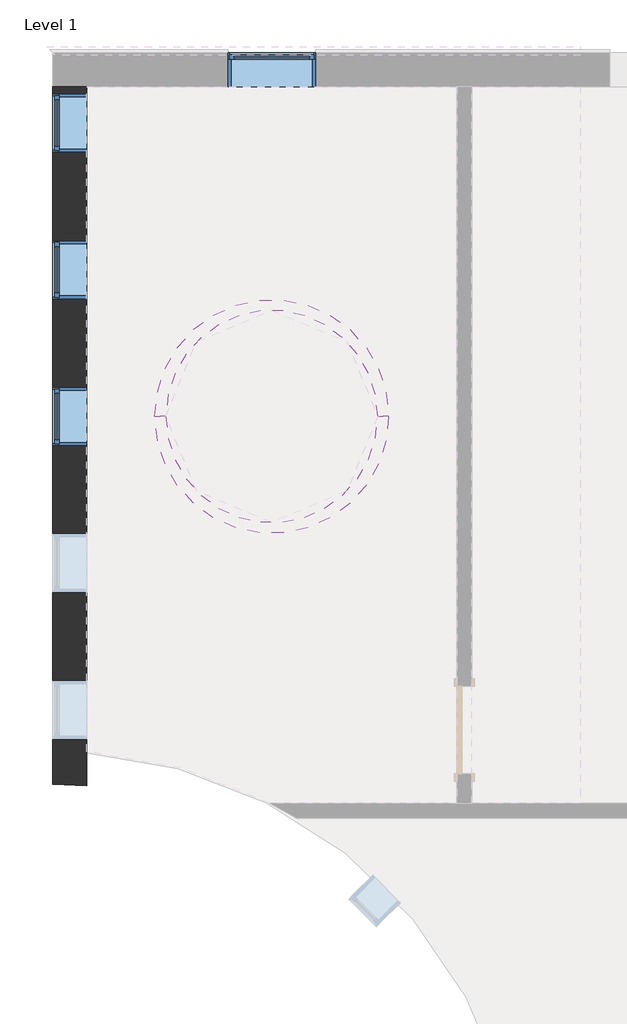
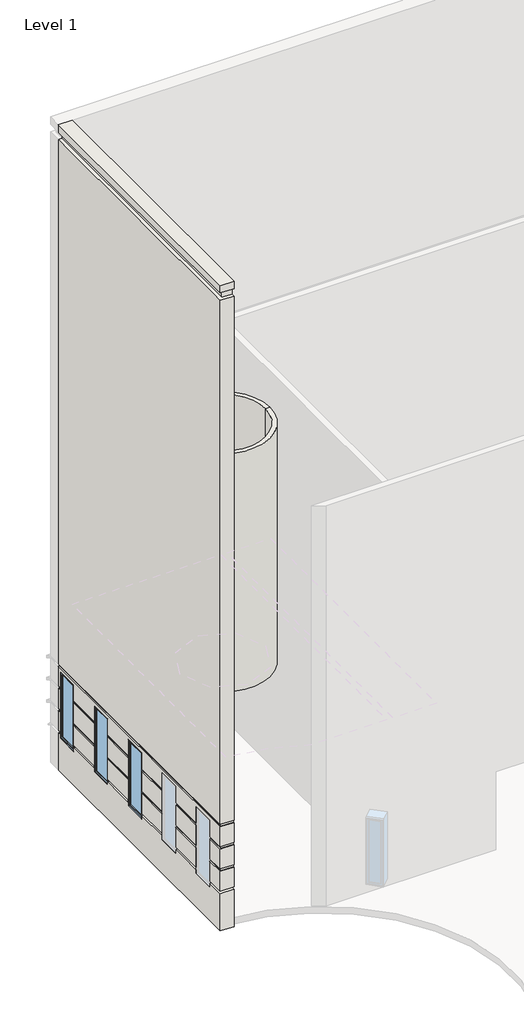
# One storey, part 6 of 16: 4 windows, 3 walls.
"""IFC4 building model written with IfcOpenShell, lengths in millimetres."""

from ifc_helpers import new_model, si_unit, point, frame, frame_2d, origin, place, context, project, spatial, polyline, circle_curve, trimmed, segment, composite_curve, outline, extrude, transform, mapped, element, save
from ifc_brep_helpers import plane_surface, cylinder_surface, revolved_surface, advanced_brep
from components import window_103a36ab, window_15c49d37

model = new_model("IFC4")

# Units and contexts
model_context = context("Model", 3, world=origin())
ifc_project = project(units=[si_unit("LENGTHUNIT", "METRE", prefix="MILLI")], contexts=[model_context])

# Site, building, storey
site = spatial("IfcSite", under=ifc_project)
building = spatial("IfcBuilding", under=site)
storey = spatial("IfcBuildingStorey", under=building, Name="Level 1", Elevation=0.0)

# Walls
placement = place(None, origin())
element("IfcWall", 1, ObjectType="Exterior - Brick and CMU on MTL. Stud (No Parapet)", at=placement, inside=storey, context=model_context, shape_type="AdvancedBrep", body=[
    advanced_brep(
    [(-67574.5273623, 17621.0987109, 17678.4), (-67574.5273623, 24888.6737109, 17678.4), (-67574.5273623, 24888.6737109, 17475.2), (-67574.5273623, 17621.0987109, 17475.2), (-67574.5273623, 24888.6737109, 0.0), (-67574.5273623, 17621.0987109, 0.0), (-67574.5273623, 17621.0987109, 1016.0), (-67574.5273623, 18090.9987109, 1016.0), (-67574.5273623, 18090.9987109, 914.4), (-67574.5273623, 18700.5987109, 914.4), (-67574.5273623, 18700.5987109, 1016.0), (-67574.5273623, 19619.7612109, 1016.0), (-67574.5273623, 19619.7612109, 914.4), (-67574.5273623, 20229.3612109, 914.4), (-67574.5273623, 20229.3612109, 1016.0), (-67574.5273623, 21148.5237109, 1016.0), (-67574.5273623, 21148.5237109, 914.4), (-67574.5273623, 21758.1237109, 914.4), (-67574.5273623, 21758.1237109, 1016.0), (-67574.5273623, 22677.2862109, 1016.0), (-67574.5273623, 22677.2862109, 914.4), (-67574.5273623, 23286.8862109, 914.4), (-67574.5273623, 23286.8862109, 1016.0), (-67574.5273623, 24206.0487109, 1016.0), (-67574.5273623, 24206.0487109, 914.4), (-67574.5273623, 24815.6487109, 914.4), (-67574.5273623, 24815.6487109, 1016.0), (-67574.5273623, 24888.6737109, 1016.0), (-67574.5273623, 24888.6737109, 1625.6), (-67574.5273623, 24888.6737109, 1085.85), (-67574.5273623, 24815.6487109, 1085.85), (-67574.5273623, 24815.6487109, 1625.6), (-67574.5273623, 24888.6737109, 2235.2), (-67574.5273623, 24888.6737109, 1693.3333333), (-67574.5273623, 24815.6487109, 1693.3333333), (-67574.5273623, 24815.6487109, 2235.2), (-67574.5273623, 24888.6737109, 2844.8), (-67574.5273623, 24888.6737109, 2302.9333333), (-67574.5273623, 24815.6487109, 2302.9333333), (-67574.5273623, 24815.6487109, 2743.2), (-67574.5273623, 24206.0487109, 2743.2), (-67574.5273623, 24206.0487109, 2302.9333333), (-67574.5273623, 23286.8862109, 2302.9333333), (-67574.5273623, 23286.8862109, 2743.2), (-67574.5273623, 22677.2862109, 2743.2), (-67574.5273623, 22677.2862109, 2302.9333333), (-67574.5273623, 21758.1237109, 2302.9333333), (-67574.5273623, 21758.1237109, 2743.2), (-67574.5273623, 21148.5237109, 2743.2), (-67574.5273623, 21148.5237109, 2302.9333333), (-67574.5273623, 20229.3612109, 2302.9333333), (-67574.5273623, 20229.3612109, 2743.2), (-67574.5273623, 19619.7612109, 2743.2), (-67574.5273623, 19619.7612109, 2302.9333333), (-67574.5273623, 18700.5987109, 2302.9333333), (-67574.5273623, 18700.5987109, 2743.2), (-67574.5273623, 18090.9987109, 2743.2), (-67574.5273623, 18090.9987109, 2302.9333333), (-67574.5273623, 17621.0987109, 2302.9333333), (-67574.5273623, 17621.0987109, 2844.8), (-67574.5273623, 24888.6737109, 17272.0), (-67574.5273623, 24888.6737109, 2912.5333333), (-67574.5273623, 17621.0987109, 2912.5333333), (-67574.5273623, 17621.0987109, 17272.0), (-67574.5273623, 17621.0987109, 1625.6), (-67574.5273623, 18090.9987109, 1625.6), (-67574.5273623, 18090.9987109, 1085.85), (-67574.5273623, 17621.0987109, 1085.85), (-67574.5273623, 18090.9987109, 1693.3333333), (-67574.5273623, 17621.0987109, 1693.3333333), (-67574.5273623, 17621.0987109, 2235.2), (-67574.5273623, 18090.9987109, 2235.2), (-67574.5273623, 18700.5987109, 1693.3333333), (-67574.5273623, 18700.5987109, 2235.2), (-67574.5273623, 19619.7612109, 2235.2), (-67574.5273623, 19619.7612109, 1693.3333333), (-67574.5273623, 18700.5987109, 1085.85), (-67574.5273623, 18700.5987109, 1625.6), (-67574.5273623, 19619.7612109, 1625.6), (-67574.5273623, 19619.7612109, 1085.85), (-67574.5273623, 23286.8862109, 1625.6), (-67574.5273623, 24206.0487109, 1625.6), (-67574.5273623, 24206.0487109, 1085.85), (-67574.5273623, 23286.8862109, 1085.85), (-67574.5273623, 24206.0487109, 1693.3333333), (-67574.5273623, 23286.8862109, 1693.3333333), (-67574.5273623, 23286.8862109, 2235.2), (-67574.5273623, 24206.0487109, 2235.2), (-67574.5273623, 21758.1237109, 1625.6), (-67574.5273623, 22677.2862109, 1625.6), (-67574.5273623, 22677.2862109, 1085.85), (-67574.5273623, 21758.1237109, 1085.85), (-67574.5273623, 22677.2862109, 1693.3333333), (-67574.5273623, 21758.1237109, 1693.3333333), (-67574.5273623, 21758.1237109, 2235.2), (-67574.5273623, 22677.2862109, 2235.2), (-67574.5273623, 20229.3612109, 1625.6), (-67574.5273623, 21148.5237109, 1625.6), (-67574.5273623, 21148.5237109, 1085.85), (-67574.5273623, 20229.3612109, 1085.85), (-67574.5273623, 21148.5237109, 1693.3333333), (-67574.5273623, 20229.3612109, 1693.3333333), (-67574.5273623, 20229.3612109, 2235.2), (-67574.5273623, 21148.5237109, 2235.2), (-67222.1023623, 17607.4954268, 0.0), (-67222.1023623, 17960.8965691, 0.0), (-67222.1023623, 24888.6737109, 0.0), (-67222.1023623, 24888.6737109, 10795.0), (-67222.1023623, 17795.3573506, 10795.0), (-67222.1023623, 17795.3573506, 10972.8), (-67222.1023623, 24888.6737109, 10972.8), (-67222.1023623, 24888.6737109, 17678.4), (-67222.1023623, 17960.8965691, 17678.4), (-67222.1023623, 17607.4954268, 17678.4), (-67222.1023623, 17607.4954268, 17475.2), (-67222.1023623, 17699.8397513, 17475.2), (-67222.1023623, 17699.8397513, 17272.0), (-67222.1023623, 17607.4954268, 17272.0), (-67222.1023623, 17607.4954268, 2912.5333333), (-67222.1023623, 17632.9708055, 2912.5333333), (-67222.1023623, 17632.9708055, 2844.8), (-67222.1023623, 17607.4954268, 2844.8), (-67222.1023623, 17607.4954268, 2302.9333333), (-67222.1023623, 17632.9708055, 2302.9333333), (-67222.1023623, 17632.9708055, 2235.2), (-67222.1023623, 17607.4954268, 2235.2), (-67222.1023623, 17607.4954268, 1693.3333333), (-67222.1023623, 17632.9708055, 1693.3333333), (-67222.1023623, 17632.9708055, 1625.6), (-67222.1023623, 17607.4954268, 1625.6), (-67222.1023623, 17607.4954268, 1085.85), (-67222.1023623, 17699.8397513, 1085.85), (-67222.1023623, 17699.8397513, 1016.0), (-67222.1023623, 17607.4954268, 1016.0), (-67222.1023623, 18700.5987109, 2743.2), (-67222.1023623, 18700.5987109, 914.4), (-67222.1023623, 18090.9987109, 914.4), (-67222.1023623, 18090.9987109, 2743.2), (-67222.1023623, 24815.6487109, 2743.2), (-67222.1023623, 24815.6487109, 914.4), (-67222.1023623, 24206.0487109, 914.4), (-67222.1023623, 24206.0487109, 2743.2), (-67222.1023623, 23286.8862109, 2743.2), (-67222.1023623, 23286.8862109, 914.4), (-67222.1023623, 22677.2862109, 914.4), (-67222.1023623, 22677.2862109, 2743.2), (-67222.1023623, 21758.1237109, 2743.2), (-67222.1023623, 21758.1237109, 914.4), (-67222.1023623, 21148.5237109, 914.4), (-67222.1023623, 21148.5237109, 2743.2), (-67222.1023623, 20229.3612109, 2743.2), (-67222.1023623, 20229.3612109, 914.4), (-67222.1023623, 19619.7612109, 914.4), (-67222.1023623, 19619.7612109, 2743.2), (-67482.4523623, 17620.1714728, 0.0), (-67482.4523623, 24888.6737109, 0.0), (-67549.1273623, 24815.6487109, 1693.3333333), (-67549.1273623, 24888.6737109, 1693.3333333), (-67549.1273623, 24888.6737109, 1625.6), (-67549.1273623, 24815.6487109, 1625.6), (-67549.1273623, 24815.6487109, 2302.9333333), (-67549.1273623, 24888.6737109, 2302.9333333), (-67549.1273623, 24888.6737109, 2235.2), (-67549.1273623, 24815.6487109, 2235.2), (-67549.1273623, 17646.4285446, 2912.5333333), (-67549.1273623, 24888.6737109, 2912.5333333), (-67549.1273623, 24888.6737109, 2844.8), (-67549.1273623, 17646.4285446, 2844.8), (-67482.4523623, 24815.6487109, 1085.85), (-67482.4523623, 24888.6737109, 1085.85), (-67482.4523623, 24888.6737109, 1016.0), (-67482.4523623, 24815.6487109, 1016.0), (-67482.4523623, 17712.2647813, 17475.2), (-67482.4523623, 24888.6737109, 17475.2), (-67482.4523623, 24888.6737109, 17272.0), (-67482.4523623, 17712.2647813, 17272.0), (-67387.2023623, 24888.6737109, 10972.8), (-67387.2023623, 24888.6737109, 10795.0), (-67549.1273623, 17646.4285446, 1693.3333333), (-67549.1273623, 17646.4285446, 1625.6), (-67549.1273623, 18090.9987109, 1625.6), (-67549.1273623, 18090.9987109, 1693.3333333), (-67549.1273623, 17646.4285446, 2302.9333333), (-67549.1273623, 17646.4285446, 2235.2), (-67549.1273623, 18090.9987109, 2235.2), (-67549.1273623, 18090.9987109, 2302.9333333), (-67482.4523623, 17712.2647813, 1085.85), (-67482.4523623, 17712.2647813, 1016.0), (-67482.4523623, 18090.9987109, 1016.0), (-67482.4523623, 18090.9987109, 1085.85), (-67549.1273623, 18700.5987109, 2302.9333333), (-67549.1273623, 18700.5987109, 2235.2), (-67549.1273623, 18700.5987109, 1693.3333333), (-67549.1273623, 18700.5987109, 1625.6), (-67482.4523623, 18700.5987109, 1085.85), (-67482.4523623, 18700.5987109, 1016.0), (-67549.1273623, 23286.8862109, 1693.3333333), (-67549.1273623, 24206.0487109, 1693.3333333), (-67549.1273623, 24206.0487109, 1625.6), (-67549.1273623, 23286.8862109, 1625.6), (-67549.1273623, 23286.8862109, 2302.9333333), (-67549.1273623, 24206.0487109, 2302.9333333), (-67549.1273623, 24206.0487109, 2235.2), (-67549.1273623, 23286.8862109, 2235.2), (-67482.4523623, 23286.8862109, 1085.85), (-67482.4523623, 24206.0487109, 1085.85), (-67482.4523623, 24206.0487109, 1016.0), (-67482.4523623, 23286.8862109, 1016.0), (-67549.1273623, 21758.1237109, 1693.3333333), (-67549.1273623, 22677.2862109, 1693.3333333), (-67549.1273623, 22677.2862109, 1625.6), (-67549.1273623, 21758.1237109, 1625.6), (-67549.1273623, 21758.1237109, 2302.9333333), (-67549.1273623, 22677.2862109, 2302.9333333), (-67549.1273623, 22677.2862109, 2235.2), (-67549.1273623, 21758.1237109, 2235.2), (-67482.4523623, 21758.1237109, 1085.85), (-67482.4523623, 22677.2862109, 1085.85), (-67482.4523623, 22677.2862109, 1016.0), (-67482.4523623, 21758.1237109, 1016.0), (-67549.1273623, 20229.3612109, 1693.3333333), (-67549.1273623, 21148.5237109, 1693.3333333), (-67549.1273623, 21148.5237109, 1625.6), (-67549.1273623, 20229.3612109, 1625.6), (-67549.1273623, 20229.3612109, 2302.9333333), (-67549.1273623, 21148.5237109, 2302.9333333), (-67549.1273623, 21148.5237109, 2235.2), (-67549.1273623, 20229.3612109, 2235.2), (-67482.4523623, 20229.3612109, 1085.85), (-67482.4523623, 21148.5237109, 1085.85), (-67482.4523623, 21148.5237109, 1016.0), (-67482.4523623, 20229.3612109, 1016.0), (-67549.1273623, 19619.7612109, 1693.3333333), (-67549.1273623, 19619.7612109, 1625.6), (-67549.1273623, 19619.7612109, 2302.9333333), (-67549.1273623, 19619.7612109, 2235.2), (-67482.4523623, 19619.7612109, 1085.85), (-67482.4523623, 19619.7612109, 1016.0), (-67387.2023623, 17804.735766, 10795.0), (-67387.2023623, 17804.735766, 10972.8)],
    [
        (0, 1),
        (1, 2),
        (2, 3),
        (3, 0),
        (4, 5),
        (5, 6),
        (6, 7),
        (7, 8),
        (8, 9),
        (9, 10),
        (10, 11),
        (11, 12),
        (12, 13),
        (13, 14),
        (14, 15),
        (15, 16),
        (16, 17),
        (17, 18),
        (18, 19),
        (19, 20),
        (20, 21),
        (21, 22),
        (22, 23),
        (23, 24),
        (24, 25),
        (25, 26),
        (26, 27),
        (27, 4),
        (28, 29),
        (29, 30),
        (30, 31),
        (31, 28),
        (32, 33),
        (33, 34),
        (34, 35),
        (35, 32),
        (36, 37),
        (37, 38),
        (38, 39),
        (39, 40),
        (40, 41),
        (41, 42),
        (42, 43),
        (43, 44),
        (44, 45),
        (45, 46),
        (46, 47),
        (47, 48),
        (48, 49),
        (49, 50),
        (50, 51),
        (51, 52),
        (52, 53),
        (53, 54),
        (54, 55),
        (55, 56),
        (56, 57),
        (57, 58),
        (58, 59),
        (59, 36),
        (60, 61),
        (61, 62),
        (62, 63),
        (63, 60),
        (64, 65),
        (65, 66),
        (66, 67),
        (67, 64),
        (68, 69),
        (69, 70),
        (70, 71),
        (71, 68),
        (72, 73),
        (73, 74),
        (74, 75),
        (75, 72),
        (76, 77),
        (77, 78),
        (78, 79),
        (79, 76),
        (80, 81),
        (81, 82),
        (82, 83),
        (83, 80),
        (84, 85),
        (85, 86),
        (86, 87),
        (87, 84),
        (88, 89),
        (89, 90),
        (90, 91),
        (91, 88),
        (92, 93),
        (93, 94),
        (94, 95),
        (95, 92),
        (96, 97),
        (97, 98),
        (98, 99),
        (99, 96),
        (100, 101),
        (101, 102),
        (102, 103),
        (103, 100),
        (104, 105),
        (105, 106),
        (106, 107),
        (107, 108),
        (108, 109),
        (109, 110),
        (110, 111),
        (111, 112),
        (112, 113),
        (113, 114),
        (114, 115),
        (115, 116),
        (116, 117),
        (117, 118),
        (118, 119),
        (119, 120),
        (120, 121),
        (121, 122),
        (122, 123),
        (123, 124),
        (124, 125),
        (125, 126),
        (126, 127),
        (127, 128),
        (128, 129),
        (129, 130),
        (130, 131),
        (131, 132),
        (132, 133),
        (133, 104),
        (134, 135),
        (135, 136),
        (136, 137),
        (137, 134),
        (138, 139),
        (139, 140),
        (140, 141),
        (141, 138),
        (142, 143),
        (143, 144),
        (144, 145),
        (145, 142),
        (146, 147),
        (147, 148),
        (148, 149),
        (149, 146),
        (150, 151),
        (151, 152),
        (152, 153),
        (153, 150),
        (0, 113, circle_curve(frame((-67574.5273623, 13049.0987109, 17678.4), z_axis=(0.0, 0.0, -1.0), x_axis=(1.0, 0.0, 0.0)), 4572.0)),
        (111, 1),
        (104, 154, circle_curve(frame((-67574.5273623, 13049.0987109, 0.0), z_axis=(0.0, 0.0, 1.0), x_axis=(1.0, 0.0, 0.0)), 4572.0)),
        (154, 155),
        (155, 106),
        (4, 155),
        (154, 5, circle_curve(frame((-67574.5273623, 13049.0987109, 0.0), z_axis=(0.0, 0.0, 1.0), x_axis=(1.0, 0.0, 0.0)), 4572.0)),
        (156, 157),
        (157, 158),
        (158, 159),
        (159, 156),
        (160, 161),
        (161, 162),
        (162, 163),
        (163, 160),
        (164, 165),
        (165, 166),
        (166, 167),
        (167, 164),
        (168, 169),
        (169, 170),
        (170, 171),
        (171, 168),
        (172, 173),
        (173, 174),
        (174, 175),
        (175, 172),
        (110, 176),
        (176, 177),
        (177, 107),
        (27, 170),
        (169, 29),
        (28, 158),
        (157, 33),
        (32, 162),
        (161, 37),
        (36, 166),
        (165, 61),
        (60, 174),
        (173, 2),
        (3, 114, circle_curve(frame((-67574.5273623, 13049.0987109, 17475.2), z_axis=(0.0, 0.0, -1.0), x_axis=(1.0, 0.0, 0.0)), 4572.0)),
        (133, 6, circle_curve(frame((-67574.5273623, 13049.0987109, 1016.0), z_axis=(0.0, 0.0, 1.0), x_axis=(1.0, 0.0, 0.0)), 4572.0)),
        (129, 64, circle_curve(frame((-67574.5273623, 13049.0987109, 1625.6), z_axis=(0.0, 0.0, 1.0), x_axis=(1.0, 0.0, 0.0)), 4572.0)),
        (67, 130, circle_curve(frame((-67574.5273623, 13049.0987109, 1085.85), z_axis=(0.0, 0.0, -1.0), x_axis=(1.0, 0.0, 0.0)), 4572.0)),
        (69, 126, circle_curve(frame((-67574.5273623, 13049.0987109, 1693.3333333), z_axis=(0.0, 0.0, -1.0), x_axis=(1.0, 0.0, 0.0)), 4572.0)),
        (125, 70, circle_curve(frame((-67574.5273623, 13049.0987109, 2235.2), z_axis=(0.0, 0.0, 1.0), x_axis=(1.0, 0.0, 0.0)), 4572.0)),
        (58, 122, circle_curve(frame((-67574.5273623, 13049.0987109, 2302.9333333), z_axis=(0.0, 0.0, -1.0), x_axis=(1.0, 0.0, 0.0)), 4572.0)),
        (121, 59, circle_curve(frame((-67574.5273623, 13049.0987109, 2844.8), z_axis=(0.0, 0.0, 1.0), x_axis=(1.0, 0.0, 0.0)), 4572.0)),
        (62, 118, circle_curve(frame((-67574.5273623, 13049.0987109, 2912.5333333), z_axis=(0.0, 0.0, -1.0), x_axis=(1.0, 0.0, 0.0)), 4572.0)),
        (117, 63, circle_curve(frame((-67574.5273623, 13049.0987109, 17272.0), z_axis=(0.0, 0.0, 1.0), x_axis=(1.0, 0.0, 0.0)), 4572.0)),
        (178, 179),
        (179, 128, circle_curve(frame((-67574.5273623, 13049.0987109, 1625.6), z_axis=(0.0, 0.0, -1.0), x_axis=(0.0, 1.0, 0.0)), 4597.4)),
        (127, 178, circle_curve(frame((-67574.5273623, 13049.0987109, 1693.3333333), z_axis=(0.0, 0.0, 1.0), x_axis=(0.0, 1.0, 0.0)), 4597.4)),
        (179, 180),
        (180, 65),
        (68, 181),
        (181, 178),
        (182, 183),
        (183, 124, circle_curve(frame((-67574.5273623, 13049.0987109, 2235.2), z_axis=(0.0, 0.0, -1.0), x_axis=(0.0, 1.0, 0.0)), 4597.4)),
        (123, 182, circle_curve(frame((-67574.5273623, 13049.0987109, 2302.9333333), z_axis=(0.0, 0.0, 1.0), x_axis=(0.0, 1.0, 0.0)), 4597.4)),
        (183, 184),
        (184, 71),
        (57, 185),
        (185, 182),
        (167, 120, circle_curve(frame((-67574.5273623, 13049.0987109, 2844.8), z_axis=(0.0, 0.0, -1.0), x_axis=(0.0, 1.0, 0.0)), 4597.4)),
        (119, 164, circle_curve(frame((-67574.5273623, 13049.0987109, 2912.5333333), z_axis=(0.0, 0.0, 1.0), x_axis=(0.0, 1.0, 0.0)), 4597.4)),
        (186, 187),
        (187, 132, circle_curve(frame((-67574.5273623, 13049.0987109, 1016.0), z_axis=(0.0, 0.0, -1.0), x_axis=(0.0, 1.0, 0.0)), 4664.075)),
        (131, 186, circle_curve(frame((-67574.5273623, 13049.0987109, 1085.85), z_axis=(0.0, 0.0, 1.0), x_axis=(0.0, 1.0, 0.0)), 4664.075)),
        (187, 188),
        (188, 7),
        (66, 189),
        (189, 186),
        (172, 115, circle_curve(frame((-67574.5273623, 13049.0987109, 17475.2), z_axis=(0.0, 0.0, -1.0), x_axis=(0.019741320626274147, 0.9998051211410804, 0.0)), 4664.075)),
        (175, 116, circle_curve(frame((-67574.5273623, 13049.0987109, 17272.0), z_axis=(0.0, 0.0, -1.0), x_axis=(0.019741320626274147, 0.9998051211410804, 0.0)), 4664.075)),
        (134, 55),
        (54, 190),
        (190, 191),
        (191, 73),
        (72, 192),
        (192, 193),
        (193, 77),
        (76, 194),
        (194, 195),
        (195, 10),
        (9, 135),
        (8, 136),
        (188, 189),
        (180, 181),
        (184, 185),
        (56, 137),
        (196, 197),
        (197, 198),
        (198, 199),
        (199, 196),
        (200, 201),
        (201, 202),
        (202, 203),
        (203, 200),
        (204, 205),
        (205, 206),
        (206, 207),
        (207, 204),
        (138, 39),
        (38, 160),
        (163, 35),
        (34, 156),
        (159, 31),
        (30, 168),
        (171, 26),
        (25, 139),
        (24, 140),
        (23, 206),
        (205, 82),
        (81, 198),
        (197, 84),
        (87, 202),
        (201, 41),
        (40, 141),
        (208, 209),
        (209, 210),
        (210, 211),
        (211, 208),
        (80, 199),
        (196, 85),
        (212, 213),
        (213, 214),
        (214, 215),
        (215, 212),
        (86, 203),
        (200, 42),
        (216, 217),
        (217, 218),
        (218, 219),
        (219, 216),
        (22, 207),
        (204, 83),
        (142, 43),
        (21, 143),
        (20, 144),
        (19, 218),
        (217, 90),
        (89, 210),
        (209, 92),
        (95, 214),
        (213, 45),
        (44, 145),
        (220, 221),
        (221, 222),
        (222, 223),
        (223, 220),
        (88, 211),
        (208, 93),
        (224, 225),
        (225, 226),
        (226, 227),
        (227, 224),
        (94, 215),
        (212, 46),
        (228, 229),
        (229, 230),
        (230, 231),
        (231, 228),
        (18, 219),
        (216, 91),
        (146, 47),
        (17, 147),
        (16, 148),
        (15, 230),
        (229, 98),
        (97, 222),
        (221, 100),
        (103, 226),
        (225, 49),
        (48, 149),
        (192, 232),
        (232, 233),
        (233, 193),
        (96, 223),
        (220, 101),
        (190, 234),
        (234, 235),
        (235, 191),
        (102, 227),
        (224, 50),
        (194, 236),
        (236, 237),
        (237, 195),
        (14, 231),
        (228, 99),
        (150, 51),
        (13, 151),
        (12, 152),
        (11, 237),
        (236, 79),
        (78, 233),
        (232, 75),
        (74, 235),
        (234, 53),
        (52, 153),
        (177, 238),
        (238, 108, circle_curve(frame((-67574.5273623, 13049.0987109, 10795.0), z_axis=(0.0, 0.0, -1.0), x_axis=(1.0, 0.0, 0.0)), 4759.325)),
        (109, 239, circle_curve(frame((-67574.5273623, 13049.0987109, 10972.8), z_axis=(0.0, 0.0, 1.0), x_axis=(1.0, 0.0, 0.0)), 4759.325)),
        (239, 176),
        (238, 239),
    ],
    [
        plane_surface(frame((-67574.5273623, 25241.0987109, 0.0), z_axis=(-1.0, 0.0, 0.0), x_axis=(0.0, -1.0, 0.0))),
        plane_surface(frame((-67222.1023623, 25241.0987109, 0.0), z_axis=(1.0, 0.0, 0.0), x_axis=(0.0, 1.0, 0.0))),
        plane_surface(frame((-67574.5273623, 17794.0403438, 17678.4), z_axis=(0.0, 0.0, 1.0), x_axis=(1.0, 0.0, 0.0))),
        plane_surface(frame((-67574.5273623, 25064.8862109, 0.0), z_axis=(0.0, 0.0, -1.0), x_axis=(1.0, 0.0, 0.0))),
        plane_surface(frame((0.0, 0.0, 0.0), z_axis=(0.0, 0.0, -1.0), x_axis=(1.0, 0.0, 0.0))),
        plane_surface(frame((-67549.1273623, 25215.6987109, 1693.3333333), z_axis=(-1.0, 0.0, 0.0), x_axis=(0.0, -1.0, 0.0))),
        plane_surface(frame((-67549.1273623, 25215.6987109, 2302.9333333), z_axis=(-1.0, 0.0, 0.0), x_axis=(0.0, -1.0, 0.0))),
        plane_surface(frame((-67549.1273623, 25215.6987109, 2912.5333333), z_axis=(-1.0, 0.0, 0.0), x_axis=(0.0, -1.0, 0.0))),
        plane_surface(frame((-67482.4523623, 25149.0237109, 1085.85), z_axis=(-1.0, 0.0, 0.0), x_axis=(0.0, -1.0, 0.0))),
        plane_surface(frame((-67482.4523623, 25149.0237109, 17475.2), z_axis=(-1.0, 0.0, 0.0), x_axis=(0.0, -1.0, 0.0))),
        plane_surface(frame((-43190.5273623, 24888.6737109, 0.0), z_axis=(0.0, 1.0, 0.0), x_axis=(1.0, 0.0, 0.0))),
        revolved_surface(polyline([(-63002.527362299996, 13049.0987109, 17475.2), (-63002.527362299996, 13049.0987109, 17678.4)]), (-67574.5273623, 13049.0987109, 0.0), (0.0, 0.0, -1.0)),
        revolved_surface(polyline([(-63002.527362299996, 13049.0987109, 0.0), (-63002.527362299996, 13049.0987109, 1016.0)]), (-67574.5273623, 13049.0987109, 0.0), (0.0, 0.0, -1.0)),
        revolved_surface(polyline([(-63002.527362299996, 13049.0987109, 1085.85), (-63002.527362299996, 13049.0987109, 1625.6)]), (-67574.5273623, 13049.0987109, 0.0), (0.0, 0.0, -1.0)),
        revolved_surface(polyline([(-63002.527362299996, 13049.0987109, 1693.3333333), (-63002.527362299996, 13049.0987109, 2235.2)]), (-67574.5273623, 13049.0987109, 0.0), (0.0, 0.0, -1.0)),
        revolved_surface(polyline([(-63002.527362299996, 13049.0987109, 2302.9333333), (-63002.527362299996, 13049.0987109, 2844.8)]), (-67574.5273623, 13049.0987109, 0.0), (0.0, 0.0, -1.0)),
        revolved_surface(polyline([(-63002.527362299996, 13049.0987109, 2912.5333333), (-63002.527362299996, 13049.0987109, 17272.0)]), (-67574.5273623, 13049.0987109, 0.0), (0.0, 0.0, -1.0)),
        revolved_surface(polyline([(-67574.5273623, 17646.4987109, 1625.6), (-67574.5273623, 17646.4987109, 1693.3333333)]), (-67574.5273623, 13049.0987109, 1625.6), (0.0, 0.0, -1.0)),
        plane_surface(frame((-67574.5273623, 13049.0987109, 1625.6), z_axis=(0.0, 0.0, 1.0), x_axis=(0.0, 1.0, 0.0))),
        plane_surface(frame((-67574.5273623, 13049.0987109, 1693.3333333), z_axis=(0.0, 0.0, -1.0), x_axis=(0.0, 1.0, 0.0))),
        revolved_surface(polyline([(-67574.5273623, 17646.4987109, 2235.2), (-67574.5273623, 17646.4987109, 2302.9333333)]), (-67574.5273623, 13049.0987109, 2235.2), (0.0, 0.0, -1.0)),
        plane_surface(frame((-67574.5273623, 13049.0987109, 2235.2), z_axis=(0.0, 0.0, 1.0), x_axis=(0.0, 1.0, 0.0))),
        plane_surface(frame((-67574.5273623, 13049.0987109, 2302.9333333), z_axis=(0.0, 0.0, -1.0), x_axis=(0.0, 1.0, 0.0))),
        revolved_surface(polyline([(-67574.5273623, 17646.4987109, 2844.8), (-67574.5273623, 17646.4987109, 2912.5333333)]), (-67574.5273623, 13049.0987109, 2844.8), (0.0, 0.0, -1.0)),
        plane_surface(frame((-67574.5273623, 13049.0987109, 2844.8), z_axis=(0.0, 0.0, 1.0), x_axis=(0.0, 1.0, 0.0))),
        plane_surface(frame((-67574.5273623, 13049.0987109, 2912.5333333), z_axis=(0.0, 0.0, -1.0), x_axis=(0.0, 1.0, 0.0))),
        revolved_surface(polyline([(-67574.5273623, 17713.1737109, 1016.0), (-67574.5273623, 17713.1737109, 1085.85)]), (-67574.5273623, 13049.0987109, 1016.0), (0.0, 0.0, -1.0)),
        plane_surface(frame((-67574.5273623, 13049.0987109, 1016.0), z_axis=(0.0, 0.0, 1.0), x_axis=(0.0, 1.0, 0.0))),
        plane_surface(frame((-67574.5273623, 13049.0987109, 1085.85), z_axis=(0.0, 0.0, -1.0), x_axis=(0.0, 1.0, 0.0))),
        plane_surface(frame((-67574.5273623, 13049.0987109, 17475.2), z_axis=(0.0, 0.0, -1.0), x_axis=(0.019741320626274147, 0.9998051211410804, 0.0))),
        revolved_surface(polyline([(-67482.45236230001, 17712.264781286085, 17272.0), (-67482.45236230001, 17712.264781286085, 17475.2)]), (-67574.5273623, 13049.0987109, 17272.0), (0.0, 0.0, -1.0)),
        plane_surface(frame((-67574.5273623, 13049.0987109, 17272.0), z_axis=(0.0, 0.0, 1.0), x_axis=(0.019741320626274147, 0.9998051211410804, 0.0))),
        plane_surface(frame((-67222.1023623, 18700.5987109, 2743.2), z_axis=(0.0, -1.0, 0.0), x_axis=(-1.0, 0.0, 0.0))),
        plane_surface(frame((-67222.1023623, 18700.5987109, 914.4), z_axis=(0.0, 0.0, 1.0), x_axis=(-1.0, 0.0, 0.0))),
        plane_surface(frame((-67222.1023623, 18090.9987109, 914.4), z_axis=(0.0, 1.0, 0.0), x_axis=(-1.0, 0.0, 0.0))),
        plane_surface(frame((-67222.1023623, 18090.9987109, 2743.2), z_axis=(0.0, 0.0, -1.0), x_axis=(-1.0, 0.0, 0.0))),
        plane_surface(frame((-67549.1273623, 24206.0487109, 1693.3333333), z_axis=(-1.0, 0.0, 0.0), x_axis=(0.0, -1.0, 0.0))),
        plane_surface(frame((-67549.1273623, 24206.0487109, 2302.9333333), z_axis=(-1.0, 0.0, 0.0), x_axis=(0.0, -1.0, 0.0))),
        plane_surface(frame((-67482.4523623, 24206.0487109, 1085.85), z_axis=(-1.0, 0.0, 0.0), x_axis=(0.0, -1.0, 0.0))),
        plane_surface(frame((-67222.1023623, 24815.6487109, 2743.2), z_axis=(0.0, -1.0, 0.0), x_axis=(-1.0, 0.0, 0.0))),
        plane_surface(frame((-67222.1023623, 24815.6487109, 914.4), z_axis=(0.0, 0.0, 1.0), x_axis=(-1.0, 0.0, 0.0))),
        plane_surface(frame((-67222.1023623, 24206.0487109, 914.4), z_axis=(0.0, 1.0, 0.0), x_axis=(-1.0, 0.0, 0.0))),
        plane_surface(frame((-67222.1023623, 24206.0487109, 2743.2), z_axis=(0.0, 0.0, -1.0), x_axis=(-1.0, 0.0, 0.0))),
        plane_surface(frame((-67549.1273623, 22677.2862109, 1693.3333333), z_axis=(-1.0, 0.0, 0.0), x_axis=(0.0, -1.0, 0.0))),
        plane_surface(frame((-67549.1273623, 24206.0487109, 1625.6), z_axis=(0.0, 0.0, 1.0), x_axis=(0.0, -1.0, 0.0))),
        plane_surface(frame((-67641.2023623, 24206.0487109, 1693.3333333), z_axis=(0.0, 0.0, -1.0), x_axis=(0.0, -1.0, 0.0))),
        plane_surface(frame((-67549.1273623, 22677.2862109, 2302.9333333), z_axis=(-1.0, 0.0, 0.0), x_axis=(0.0, -1.0, 0.0))),
        plane_surface(frame((-67549.1273623, 24206.0487109, 2235.2), z_axis=(0.0, 0.0, 1.0), x_axis=(0.0, -1.0, 0.0))),
        plane_surface(frame((-67641.2023623, 24206.0487109, 2302.9333333), z_axis=(0.0, 0.0, -1.0), x_axis=(0.0, -1.0, 0.0))),
        plane_surface(frame((-67482.4523623, 22677.2862109, 1085.85), z_axis=(-1.0, 0.0, 0.0), x_axis=(0.0, -1.0, 0.0))),
        plane_surface(frame((-67482.4523623, 24206.0487109, 1016.0), z_axis=(0.0, 0.0, 1.0), x_axis=(0.0, -1.0, 0.0))),
        plane_surface(frame((-67574.5273623, 24206.0487109, 1085.85), z_axis=(0.0, 0.0, -1.0), x_axis=(0.0, -1.0, 0.0))),
        plane_surface(frame((-67222.1023623, 23286.8862109, 2743.2), z_axis=(0.0, -1.0, 0.0), x_axis=(-1.0, 0.0, 0.0))),
        plane_surface(frame((-67222.1023623, 23286.8862109, 914.4), z_axis=(0.0, 0.0, 1.0), x_axis=(-1.0, 0.0, 0.0))),
        plane_surface(frame((-67222.1023623, 22677.2862109, 914.4), z_axis=(0.0, 1.0, 0.0), x_axis=(-1.0, 0.0, 0.0))),
        plane_surface(frame((-67222.1023623, 22677.2862109, 2743.2), z_axis=(0.0, 0.0, -1.0), x_axis=(-1.0, 0.0, 0.0))),
        plane_surface(frame((-67549.1273623, 21148.5237109, 1693.3333333), z_axis=(-1.0, 0.0, 0.0), x_axis=(0.0, -1.0, 0.0))),
        plane_surface(frame((-67549.1273623, 22677.2862109, 1625.6), z_axis=(0.0, 0.0, 1.0), x_axis=(0.0, -1.0, 0.0))),
        plane_surface(frame((-67641.2023623, 22677.2862109, 1693.3333333), z_axis=(0.0, 0.0, -1.0), x_axis=(0.0, -1.0, 0.0))),
        plane_surface(frame((-67549.1273623, 21148.5237109, 2302.9333333), z_axis=(-1.0, 0.0, 0.0), x_axis=(0.0, -1.0, 0.0))),
        plane_surface(frame((-67549.1273623, 22677.2862109, 2235.2), z_axis=(0.0, 0.0, 1.0), x_axis=(0.0, -1.0, 0.0))),
        plane_surface(frame((-67641.2023623, 22677.2862109, 2302.9333333), z_axis=(0.0, 0.0, -1.0), x_axis=(0.0, -1.0, 0.0))),
        plane_surface(frame((-67482.4523623, 21148.5237109, 1085.85), z_axis=(-1.0, 0.0, 0.0), x_axis=(0.0, -1.0, 0.0))),
        plane_surface(frame((-67482.4523623, 22677.2862109, 1016.0), z_axis=(0.0, 0.0, 1.0), x_axis=(0.0, -1.0, 0.0))),
        plane_surface(frame((-67574.5273623, 22677.2862109, 1085.85), z_axis=(0.0, 0.0, -1.0), x_axis=(0.0, -1.0, 0.0))),
        plane_surface(frame((-67222.1023623, 21758.1237109, 2743.2), z_axis=(0.0, -1.0, 0.0), x_axis=(-1.0, 0.0, 0.0))),
        plane_surface(frame((-67222.1023623, 21758.1237109, 914.4), z_axis=(0.0, 0.0, 1.0), x_axis=(-1.0, 0.0, 0.0))),
        plane_surface(frame((-67222.1023623, 21148.5237109, 914.4), z_axis=(0.0, 1.0, 0.0), x_axis=(-1.0, 0.0, 0.0))),
        plane_surface(frame((-67222.1023623, 21148.5237109, 2743.2), z_axis=(0.0, 0.0, -1.0), x_axis=(-1.0, 0.0, 0.0))),
        plane_surface(frame((-67549.1273623, 19619.7612109, 1693.3333333), z_axis=(-1.0, 0.0, 0.0), x_axis=(0.0, -1.0, 0.0))),
        plane_surface(frame((-67549.1273623, 21148.5237109, 1625.6), z_axis=(0.0, 0.0, 1.0), x_axis=(0.0, -1.0, 0.0))),
        plane_surface(frame((-67641.2023623, 21148.5237109, 1693.3333333), z_axis=(0.0, 0.0, -1.0), x_axis=(0.0, -1.0, 0.0))),
        plane_surface(frame((-67549.1273623, 19619.7612109, 2302.9333333), z_axis=(-1.0, 0.0, 0.0), x_axis=(0.0, -1.0, 0.0))),
        plane_surface(frame((-67549.1273623, 21148.5237109, 2235.2), z_axis=(0.0, 0.0, 1.0), x_axis=(0.0, -1.0, 0.0))),
        plane_surface(frame((-67641.2023623, 21148.5237109, 2302.9333333), z_axis=(0.0, 0.0, -1.0), x_axis=(0.0, -1.0, 0.0))),
        plane_surface(frame((-67482.4523623, 19619.7612109, 1085.85), z_axis=(-1.0, 0.0, 0.0), x_axis=(0.0, -1.0, 0.0))),
        plane_surface(frame((-67482.4523623, 21148.5237109, 1016.0), z_axis=(0.0, 0.0, 1.0), x_axis=(0.0, -1.0, 0.0))),
        plane_surface(frame((-67574.5273623, 21148.5237109, 1085.85), z_axis=(0.0, 0.0, -1.0), x_axis=(0.0, -1.0, 0.0))),
        plane_surface(frame((-67222.1023623, 20229.3612109, 2743.2), z_axis=(0.0, -1.0, 0.0), x_axis=(-1.0, 0.0, 0.0))),
        plane_surface(frame((-67222.1023623, 20229.3612109, 914.4), z_axis=(0.0, 0.0, 1.0), x_axis=(-1.0, 0.0, 0.0))),
        plane_surface(frame((-67222.1023623, 19619.7612109, 914.4), z_axis=(0.0, 1.0, 0.0), x_axis=(-1.0, 0.0, 0.0))),
        plane_surface(frame((-67222.1023623, 19619.7612109, 2743.2), z_axis=(0.0, 0.0, -1.0), x_axis=(-1.0, 0.0, 0.0))),
        plane_surface(frame((-67549.1273623, 18090.9987109, 1693.3333333), z_axis=(-1.0, 0.0, 0.0), x_axis=(0.0, -1.0, 0.0))),
        plane_surface(frame((-67549.1273623, 19619.7612109, 1625.6), z_axis=(0.0, 0.0, 1.0), x_axis=(0.0, -1.0, 0.0))),
        plane_surface(frame((-67641.2023623, 19619.7612109, 1693.3333333), z_axis=(0.0, 0.0, -1.0), x_axis=(0.0, -1.0, 0.0))),
        plane_surface(frame((-43190.5273623, 25215.6987109, 1625.6), z_axis=(0.0, 0.0, 1.0), x_axis=(-1.0, 0.0, 0.0))),
        plane_surface(frame((-43190.5273623, 25307.7737109, 1693.3333333), z_axis=(0.0, 0.0, -1.0), x_axis=(-1.0, 0.0, 0.0))),
        plane_surface(frame((-67549.1273623, 18090.9987109, 2302.9333333), z_axis=(-1.0, 0.0, 0.0), x_axis=(0.0, -1.0, 0.0))),
        plane_surface(frame((-67549.1273623, 19619.7612109, 2235.2), z_axis=(0.0, 0.0, 1.0), x_axis=(0.0, -1.0, 0.0))),
        plane_surface(frame((-67641.2023623, 19619.7612109, 2302.9333333), z_axis=(0.0, 0.0, -1.0), x_axis=(0.0, -1.0, 0.0))),
        plane_surface(frame((-43190.5273623, 25215.6987109, 2235.2), z_axis=(0.0, 0.0, 1.0), x_axis=(-1.0, 0.0, 0.0))),
        plane_surface(frame((-43190.5273623, 25307.7737109, 2302.9333333), z_axis=(0.0, 0.0, -1.0), x_axis=(-1.0, 0.0, 0.0))),
        plane_surface(frame((-67482.4523623, 18090.9987109, 1085.85), z_axis=(-1.0, 0.0, 0.0), x_axis=(0.0, -1.0, 0.0))),
        plane_surface(frame((-67482.4523623, 19619.7612109, 1016.0), z_axis=(0.0, 0.0, 1.0), x_axis=(0.0, -1.0, 0.0))),
        plane_surface(frame((-67574.5273623, 19619.7612109, 1085.85), z_axis=(0.0, 0.0, -1.0), x_axis=(0.0, -1.0, 0.0))),
        plane_surface(frame((-65749.1669457, 25149.0237109, 1016.0), z_axis=(0.0, 0.0, 1.0), x_axis=(-1.0, 0.0, 0.0))),
        plane_surface(frame((-65749.1669457, 25241.0987109, 1085.85), z_axis=(0.0, 0.0, -1.0), x_axis=(-1.0, 0.0, 0.0))),
        plane_surface(frame((-43377.8523623, 25053.7737109, 10795.0), z_axis=(0.0, 0.0, 1.0), x_axis=(1.0, 0.0, 0.0))),
        plane_surface(frame((-43377.8523623, 25053.7737109, 10972.8), z_axis=(0.0, 0.0, -1.0), x_axis=(-1.0, 0.0, 0.0))),
        cylinder_surface(frame((-67574.5273623, 13049.0987109, 10972.8), z_axis=(0.0, 0.0, 1.0), x_axis=(1.0, 0.0, 0.0)), 4759.325),
        plane_surface(frame((-67387.2023623, 17804.735766, 10795.0), z_axis=(1.0, 0.0, 0.0), x_axis=(0.0, 0.0, 1.0))),
    ],
    [
        (0, [[1, 2, 3, 4]]),
        (0, [[5, 6, 7, 8, 9, 10, 11, 12, 13, 14, 15, 16, 17, 18, 19, 20, 21, 22, 23, 24, 25, 26, 27, 28]]),
        (0, [[29, 30, 31, 32]]),
        (0, [[33, 34, 35, 36]]),
        (0, [[37, 38, 39, 40, 41, 42, 43, 44, 45, 46, 47, 48, 49, 50, 51, 52, 53, 54, 55, 56, 57, 58, 59, 60]]),
        (0, [[61, 62, 63, 64]]),
        (0, [[65, 66, 67, 68]]),
        (0, [[69, 70, 71, 72]]),
        (0, [[73, 74, 75, 76]]),
        (0, [[77, 78, 79, 80]]),
        (0, [[81, 82, 83, 84]]),
        (0, [[85, 86, 87, 88]]),
        (0, [[89, 90, 91, 92]]),
        (0, [[93, 94, 95, 96]]),
        (0, [[97, 98, 99, 100]]),
        (0, [[101, 102, 103, 104]]),
        (1, [[105, 106, 107, 108, 109, 110, 111, 112, 113, 114, 115, 116, 117, 118, 119, 120, 121, 122, 123, 124, 125, 126, 127, 128, 129, 130, 131, 132, 133, 134], [135, 136, 137, 138], [139, 140, 141, 142], [143, 144, 145, 146], [147, 148, 149, 150], [151, 152, 153, 154]]),
        (2, [[-1, 155, -113, -112, 156]]),
        (3, [[-106, -105, 157, 158, 159]]),
        (4, [[-5, 160, -158, 161]]),
        (5, [[162, 163, 164, 165]]),
        (6, [[166, 167, 168, 169]]),
        (7, [[170, 171, 172, 173]]),
        (8, [[174, 175, 176, 177]]),
        (9, [[178, 179, 180, 181]]),
        (10, [[-156, -111, 182, 183, 184, -107, -159, -160, -28, 185, -175, 186, -29, 187, -163, 188, -33, 189, -167, 190, -37, 191, -171, 192, -61, 193, -179, 194, -2]]),
        (11, [[-155, -4, 195, -114]]),
        (12, [[-157, -134, 196, -6, -161]]),
        (13, [[197, -68, 198, -130]]),
        (14, [[199, -126, 200, -70]]),
        (15, [[201, -122, 202, -59]]),
        (16, [[203, -118, 204, -63]]),
        (17, [[205, 206, -128, 207]]),
        (18, [[-206, 208, 209, -65, -197, -129]]),
        (19, [[-207, -127, -199, -69, 210, 211]]),
        (20, [[212, 213, -124, 214]]),
        (21, [[-213, 215, 216, -71, -200, -125]]),
        (22, [[-214, -123, -201, -58, 217, 218]]),
        (23, [[-173, 219, -120, 220]]),
        (24, [[-172, -191, -60, -202, -121, -219]]),
        (25, [[-170, -220, -119, -203, -62, -192]]),
        (26, [[221, 222, -132, 223]]),
        (27, [[-222, 224, 225, -7, -196, -133]]),
        (28, [[-223, -131, -198, -67, 226, 227]]),
        (29, [[-178, 228, -115, -195, -3, -194]]),
        (30, [[-181, 229, -116, -228]]),
        (31, [[-180, -193, -64, -204, -117, -229]]),
        (32, [[-135, 230, -55, 231, 232, 233, -73, 234, 235, 236, -77, 237, 238, 239, -10, 240]]),
        (33, [[-136, -240, -9, 241]]),
        (34, [[-137, -241, -8, -225, 242, -226, -66, -209, 243, -210, -72, -216, 244, -217, -57, 245]]),
        (35, [[-138, -245, -56, -230]]),
        (36, [[246, 247, 248, 249]]),
        (37, [[250, 251, 252, 253]]),
        (38, [[254, 255, 256, 257]]),
        (39, [[-139, 258, -39, 259, -169, 260, -35, 261, -165, 262, -31, 263, -177, 264, -26, 265]]),
        (40, [[-140, -265, -25, 266]]),
        (41, [[-141, -266, -24, 267, -255, 268, -82, 269, -247, 270, -88, 271, -251, 272, -41, 273]]),
        (42, [[-142, -273, -40, -258]]),
        (43, [[274, 275, 276, 277]]),
        (44, [[-248, -269, -81, 278]]),
        (45, [[-246, 279, -85, -270]]),
        (46, [[280, 281, 282, 283]]),
        (47, [[-252, -271, -87, 284]]),
        (48, [[-250, 285, -42, -272]]),
        (49, [[286, 287, 288, 289]]),
        (50, [[-256, -267, -23, 290]]),
        (51, [[-254, 291, -83, -268]]),
        (52, [[-143, 292, -43, -285, -253, -284, -86, -279, -249, -278, -84, -291, -257, -290, -22, 293]]),
        (53, [[-144, -293, -21, 294]]),
        (54, [[-145, -294, -20, 295, -287, 296, -90, 297, -275, 298, -96, 299, -281, 300, -45, 301]]),
        (55, [[-146, -301, -44, -292]]),
        (56, [[302, 303, 304, 305]]),
        (57, [[-276, -297, -89, 306]]),
        (58, [[-274, 307, -93, -298]]),
        (59, [[308, 309, 310, 311]]),
        (60, [[-282, -299, -95, 312]]),
        (61, [[-280, 313, -46, -300]]),
        (62, [[314, 315, 316, 317]]),
        (63, [[-288, -295, -19, 318]]),
        (64, [[-286, 319, -91, -296]]),
        (65, [[-147, 320, -47, -313, -283, -312, -94, -307, -277, -306, -92, -319, -289, -318, -18, 321]]),
        (66, [[-148, -321, -17, 322]]),
        (67, [[-149, -322, -16, 323, -315, 324, -98, 325, -303, 326, -104, 327, -309, 328, -49, 329]]),
        (68, [[-150, -329, -48, -320]]),
        (69, [[330, 331, 332, -235]]),
        (70, [[-304, -325, -97, 333]]),
        (71, [[-302, 334, -101, -326]]),
        (72, [[335, 336, 337, -232]]),
        (73, [[-310, -327, -103, 338]]),
        (74, [[-308, 339, -50, -328]]),
        (75, [[340, 341, 342, -238]]),
        (76, [[-316, -323, -15, 343]]),
        (77, [[-314, 344, -99, -324]]),
        (78, [[-151, 345, -51, -339, -311, -338, -102, -334, -305, -333, -100, -344, -317, -343, -14, 346]]),
        (79, [[-152, -346, -13, 347]]),
        (80, [[-153, -347, -12, 348, -341, 349, -79, 350, -331, 351, -75, 352, -336, 353, -53, 354]]),
        (81, [[-154, -354, -52, -345]]),
        (82, [[-205, -211, -243, -208]]),
        (83, [[-332, -350, -78, -236]]),
        (84, [[-330, -234, -76, -351]]),
        (85, [[-164, -187, -32, -262]]),
        (86, [[-162, -261, -34, -188]]),
        (87, [[-212, -218, -244, -215]]),
        (88, [[-337, -352, -74, -233]]),
        (89, [[-335, -231, -54, -353]]),
        (90, [[-168, -189, -36, -260]]),
        (91, [[-166, -259, -38, -190]]),
        (92, [[-221, -227, -242, -224]]),
        (93, [[-342, -348, -11, -239]]),
        (94, [[-340, -237, -80, -349]]),
        (95, [[-176, -185, -27, -264]]),
        (96, [[-174, -263, -30, -186]]),
        (97, [[355, 356, -108, -184]]),
        (98, [[357, 358, -182, -110]]),
        (99, [[359, -357, -109, -356]]),
        (100, [[-359, -355, -183, -358]]),
    ],
),
])
element("IfcWall", 2, ObjectType="4 1/2” Soffit", at=placement, inside=storey, context=model_context, shape_type="SweptSolid", body=[
    extrude(outline(composite_curve([segment(polyline([(-66396.8669457, 21453.3237109), (-66511.1669457, 21453.3237109)]), True, "CONTINUOUS"), segment(trimmed(circle_curve(frame_2d((-65291.9669457, 21453.3237109)), 1219.2), [point((-66511.1669457, 21453.3237109))], [point((-64072.7669457, 21453.3237109))], False, "CARTESIAN"), True, "CONTINUOUS"), segment(polyline([(-64072.7669457, 21453.3237109), (-64187.0669457, 21453.3237109)]), True, "CONTINUOUS"), segment(trimmed(circle_curve(frame_2d((-65291.9669457, 21453.3237109)), 1104.9), [point((-64187.0669457, 21453.3237109))], [point((-66396.8669457, 21453.3237109))], True, "CARTESIAN"), True, "CONTINUOUS")], self_intersect=False)), frame((0.0, 0.0, 4267.2), z_axis=(0.0, 0.0, 1.0), x_axis=(1.0, 0.0, 0.0)), (0.0, 0.0, 1.0), 6527.8),
])
element("IfcWall", 3, ObjectType="4 1/2” Soffit", at=placement, inside=storey, context=model_context, shape_type="SweptSolid", body=[
    extrude(outline(composite_curve([segment(polyline([(-64187.0669457, 21453.3237109), (-64072.7669457, 21453.3237109)]), True, "CONTINUOUS"), segment(trimmed(circle_curve(frame_2d((-65291.9669457, 21453.3237109)), 1219.2), [point((-64072.7669457, 21453.3237109))], [point((-66511.1669457, 21453.3237109))], False, "CARTESIAN"), True, "CONTINUOUS"), segment(polyline([(-66511.1669457, 21453.3237109), (-66396.8669457, 21453.3237109)]), True, "CONTINUOUS"), segment(trimmed(circle_curve(frame_2d((-65291.9669457, 21453.3237109)), 1104.9), [point((-66396.8669457, 21453.3237109))], [point((-64187.0669457, 21453.3237109))], True, "CARTESIAN"), True, "CONTINUOUS")], self_intersect=False)), frame((0.0, 0.0, 4267.2), z_axis=(0.0, 0.0, 1.0), x_axis=(1.0, 0.0, 0.0)), (0.0, 0.0, 1.0), 6527.8),
])

# Windows
window_shape = window_103a36ab(model_context)
element("IfcWindow", 4, ObjectType="Fixed : 24\" x 72\"", at=placement, inside=storey, context=model_context, shape_type="MappedRepresentation", body=[
    mapped(window_shape, transform((-67398.3148623, 24548.9487109, 609.6), x_axis=(0.0, 1.0, 0.0), y_axis=(-1.0, 0.0, 0.0), z_axis=(0.0, 0.0, 1.0))),
])
element("IfcWindow", 5, ObjectType="Fixed : 24\" x 72\"", at=placement, inside=storey, context=model_context, shape_type="MappedRepresentation", body=[
    mapped(window_shape, transform((-67398.3148623, 21491.4237109, 609.6), x_axis=(0.0, 1.0, 0.0), y_axis=(-1.0, 0.0, 0.0), z_axis=(0.0, 0.0, 1.0))),
])
element("IfcWindow", 6, ObjectType="Fixed : 24\" x 72\"", at=placement, inside=storey, context=model_context, shape_type="MappedRepresentation", body=[
    mapped(window_shape, transform((-67398.3148623, 23020.1862109, 609.6), x_axis=(0.0, 1.0, 0.0), y_axis=(-1.0, 0.0, 0.0), z_axis=(0.0, 0.0, 1.0))),
])
window_2_shape = window_15c49d37(model_context)
element("IfcWindow", 7, ObjectType="Fixed : 36\" x 48\"", at=placement, inside=storey, context=model_context, shape_type="MappedRepresentation", body=[
    mapped(window_2_shape, transform((-65253.8669457, 25064.8862109, -609.6), x_axis=(1.0, 0.0, 0.0), y_axis=(0.0, 1.0, 0.0), z_axis=(0.0, 0.0, 1.0))),
])

save(model, "model.ifc")
